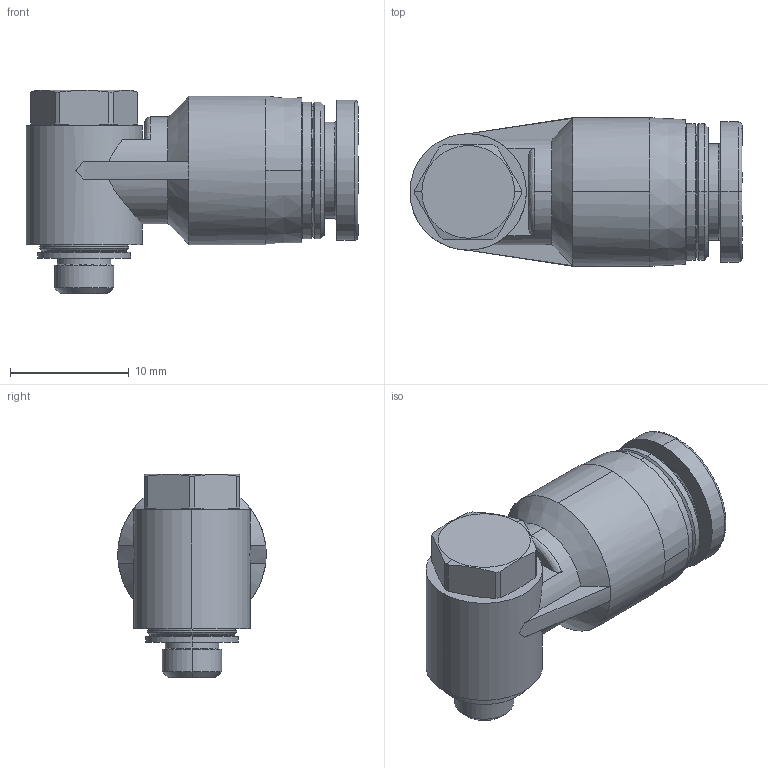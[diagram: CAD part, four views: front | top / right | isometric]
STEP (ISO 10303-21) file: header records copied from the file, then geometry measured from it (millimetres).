
FILE_DESCRIPTION (( 'STEP AP214' ), '1' );
FILE_NAME ('KQ2V06-M5A.STEP', '2023-03-06T08:30:12', ( 'Windows User' ), ( 'P R C' ), 'SwSTEP 2.0', 'SolidWorks 2019', '' );
FILE_SCHEMA (( 'AUTOMOTIVE_DESIGN' ));
Length unit declared in the file: millimetre
Products named in the file (1): KQ2V06-M5A
Bounding box: 27.95 x 12.5 x 17.15 mm (x, y, z)
Volume: 2499.5 mm3; surface area: 1880.2 mm2
Topology: 1 solids, 1 shells, 94 faces, 218 edges, 135 vertices
Faces by surface type: cylinder 36, cone 27, plane 24, bspline 7
Entity records: 3285 total; most frequent: CARTESIAN_POINT 1110, DIRECTION 469, ORIENTED_EDGE 436, EDGE_CURVE 218, AXIS2_PLACEMENT_3D 196, VERTEX_POINT 135, CIRCLE 108, EDGE_LOOP 103
